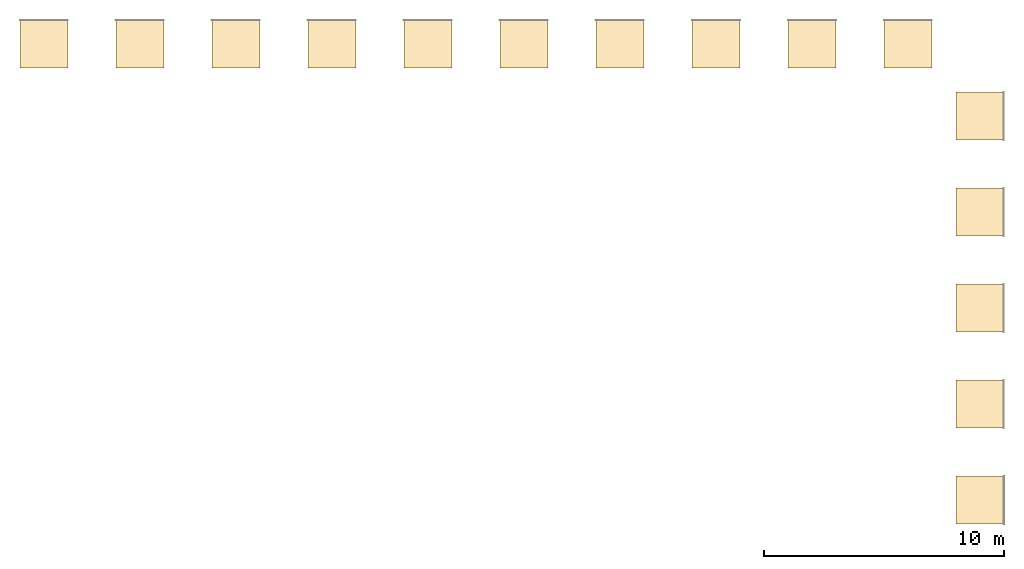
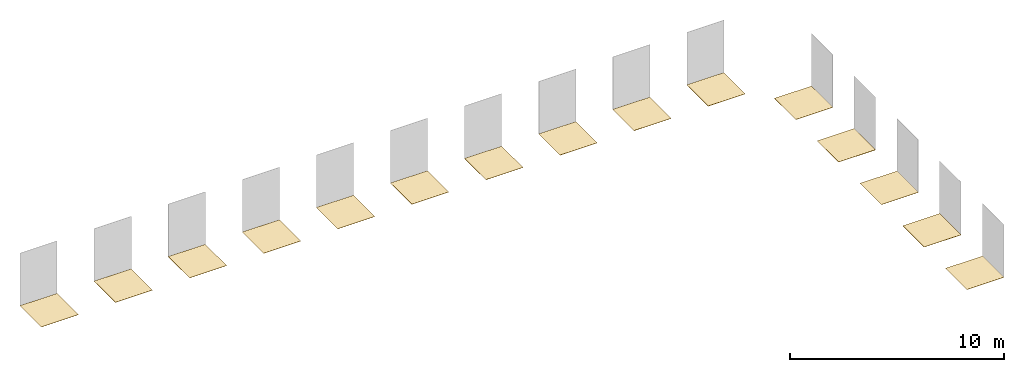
# One storey, part 2 of 2: 15 coverings.
"""IFC2X3 building model written with IfcOpenShell, lengths in millimetres."""

import ifcopenshell
import ifcopenshell.guid

model = None  # the IFC model being written
_history = None  # IfcOwnerHistory: only IFC2X3 demands one
_inside = {}  # id of a spatial element -> (the spatial element, [elements in it])
_under = {}  # id of a project, library or spatial element -> (it, [spatial elements below it])
_declared = {}  # id of a project -> (the project, [libraries it declares])
_typed = {}  # id of a type object -> (the type object, [elements of that type])
_made_of = {}  # id of a material, layer set ... -> (it, [elements and type objects made of it])


def new_model(schema):
    """Start an empty IFC model of exactly this schema.

    Asked for "IFC4X3", IfcOpenShell would pick the latest addendum, in which some entities
    have other attributes; the version numbers below select the first issue.
    IFC2X3 requires an IfcOwnerHistory on every rooted entity: one is made here for all.
    """
    global model, _history
    if schema == "IFC4X3":
        model = ifcopenshell.file(schema_version=(4, 3, 0, 0))
    else:
        model = ifcopenshell.file(schema=schema)
    _inside.clear()
    _under.clear()
    _declared.clear()
    _typed.clear()
    _made_of.clear()
    _history = None
    if model.schema == "IFC2X3":
        org = make("IfcOrganization", Name="unknown")
        user = make(
            "IfcPersonAndOrganization",
            ThePerson=make("IfcPerson", FamilyName="unknown"),
            TheOrganization=org,
        )
        app = make(
            "IfcApplication",
            ApplicationDeveloper=org,
            Version="unknown",
            ApplicationFullName="unknown",
            ApplicationIdentifier="unknown",
        )
        _history = make(
            "IfcOwnerHistory",
            OwningUser=user,
            OwningApplication=app,
            ChangeAction="ADDED",
            CreationDate=0,
        )
    return model


def make(cls, **values):
    """One entity of the class cls with the attributes given. An attribute that is None is left unset."""
    return model.create_entity(
        cls, **{name: value for name, value in values.items() if value is not None}
    )


def entity(cls, *values):
    """Any entity or typed value of the class cls, its attributes in the order of the schema. None: left unset."""
    e = model.create_entity(cls)
    for i, value in enumerate(values):
        if value is not None:
            e[i] = value
    return e


def rooted(cls, **values):
    """An entity with a GlobalId (a new one), such as an element, a storey or a relation."""
    return make(cls, GlobalId=ifcopenshell.guid.new(), OwnerHistory=_history, **values)


def si_unit(unit_type, name, prefix=None):
    """IfcSIUnit, for example si_unit("LENGTHUNIT", "METRE", prefix="MILLI")."""
    return make("IfcSIUnit", UnitType=unit_type, Prefix=prefix, Name=name)


def converted_unit(unit_type, name, factor, base, dimensions=None, offset=None):
    """IfcConversionBasedUnit, such as the inch: factor (a typed value) times the base unit."""
    return make(
        "IfcConversionBasedUnit"
        if offset is None
        else "IfcConversionBasedUnitWithOffset",
        ConversionOffset=offset,
        Dimensions=None
        if dimensions is None
        else entity("IfcDimensionalExponents", *dimensions),
        UnitType=unit_type,
        Name=name,
        ConversionFactor=make(
            "IfcMeasureWithUnit", ValueComponent=factor, UnitComponent=base
        ),
    )


def derived_unit(unit_type, elements):
    """IfcDerivedUnit: a product of units, each with its exponent."""
    return make(
        "IfcDerivedUnit",
        Elements=[
            make("IfcDerivedUnitElement", Unit=unit, Exponent=power)
            for unit, power in elements
        ],
        UnitType=unit_type,
    )


def assignment(units):
    """IfcUnitAssignment: the units of a project."""
    return None if units is None else make("IfcUnitAssignment", Units=units)


def point(xyz):
    """IfcCartesianPoint."""
    return None if xyz is None else make("IfcCartesianPoint", Coordinates=xyz)


def direction(xyz):
    """IfcDirection."""
    return None if xyz is None else make("IfcDirection", DirectionRatios=xyz)


def frame(location, z_axis=None, x_axis=None):
    """IfcAxis2Placement3D, a coordinate frame: its origin and axes. An axis left out is left unset."""
    return make(
        "IfcAxis2Placement3D",
        Location=point(location),
        Axis=direction(z_axis),
        RefDirection=direction(x_axis),
    )


def frame_2d(location, x_axis=None):
    """IfcAxis2Placement2D, a coordinate frame in the plane: its origin and x axis."""
    return make(
        "IfcAxis2Placement2D", Location=point(location), RefDirection=direction(x_axis)
    )


def origin():
    """The frame at (0, 0, 0) with its axes left unset."""
    return frame((0.0, 0.0, 0.0))


def place(relative_to, where):
    """IfcLocalPlacement: puts the frame where relative to a parent placement (None: the world)."""
    return make(
        "IfcLocalPlacement", PlacementRelTo=relative_to, RelativePlacement=where
    )


def context(
    kind, dimensions, precision=None, world=None, true_north=None, identifier=None
):
    """IfcGeometricRepresentationContext, for example the 3D "Model" context."""
    return make(
        "IfcGeometricRepresentationContext",
        ContextIdentifier=identifier,
        ContextType=kind,
        CoordinateSpaceDimension=dimensions,
        Precision=precision,
        WorldCoordinateSystem=world,
        TrueNorth=true_north,
    )


def subcontext(parent, identifier, kind, view, scale=None):
    """IfcGeometricRepresentationSubContext, for example "Body" below "Model"."""
    return make(
        "IfcGeometricRepresentationSubContext",
        ContextIdentifier=identifier,
        ContextType=kind,
        ParentContext=parent,
        TargetScale=scale,
        TargetView=view,
    )


def project(units=None, contexts=None):
    """IfcProject with its units and contexts."""
    return rooted(
        "IfcProject",
        Name="project",
        RepresentationContexts=contexts,
        UnitsInContext=assignment(units),
    )


def spatial(cls, under=None, at=None, **own):
    """A site, building, storey or space (cls), placed at a placement, below another one or the project."""
    s = rooted(cls, ObjectPlacement=at, **own)
    if under is not None:
        _under.setdefault(under.id(), (under, []))[1].append(s)
    return s


def profile(cls, at=None, kind="AREA", **sizes):
    """A parametric profile (cls). Its sizes go by their IFC names, for example OverallWidth=200.0."""
    return make(cls, ProfileType=kind, Position=at, **sizes)


def rectangle(**sizes):
    """IfcRectangleProfileDef."""
    return profile("IfcRectangleProfileDef", **sizes)


def extrude(swept, where, along, depth):
    """IfcExtrudedAreaSolid: the profile swept, set in the frame where, extruded along a direction by depth."""
    return make(
        "IfcExtrudedAreaSolid",
        SweptArea=swept,
        Position=where,
        ExtrudedDirection=direction(along),
        Depth=depth,
    )


def shape(context_of_items, identifier, shape_type, items):
    """IfcShapeRepresentation: the items that make up one representation, for example the "Body"."""
    return make(
        "IfcShapeRepresentation",
        ContextOfItems=context_of_items,
        RepresentationIdentifier=identifier,
        RepresentationType=shape_type,
        Items=items,
    )


def material(Name=None, Category=None):
    """IfcMaterial."""
    return make("IfcMaterial", Name=Name, Category=Category)


def layer(
    of_material, thickness, ventilated=None, Name=None, Category=None, Priority=None
):
    """IfcMaterialLayer: one layer of a wall or slab, of a material (None: an air gap)."""
    return make(
        "IfcMaterialLayer",
        Material=of_material,
        LayerThickness=thickness,
        IsVentilated=ventilated,
        Name=Name,
        Category=Category,
        Priority=Priority,
    )


def layer_set(layers, Name=None):
    """IfcMaterialLayerSet."""
    return make("IfcMaterialLayerSet", MaterialLayers=layers, LayerSetName=Name)


def layer_usage(for_layer_set, set_direction, sense, offset, extent=None):
    """IfcMaterialLayerSetUsage: how a layer set lies in its element."""
    return make(
        "IfcMaterialLayerSetUsage",
        ForLayerSet=for_layer_set,
        LayerSetDirection=set_direction,
        DirectionSense=sense,
        OffsetFromReferenceLine=offset,
        ReferenceExtent=extent,
    )


def made_of(thing, what):
    """Note that an element or type object is made of a material, layer set ...; save() writes the relation."""
    if what is not None:
        _made_of.setdefault(what.id(), (what, []))[1].append(thing)
    return thing


def element(
    cls,
    number,
    at=None,
    inside=None,
    cuts=None,
    type_object=None,
    material=None,
    context=None,
    identifier="Body",
    shape_type=None,
    held_by="IfcProductDefinitionShape",
    body=None,
    shapes=None,
    **own,
):
    """One element of the class cls, such as IfcWall. Its Tag is "e" and its number.

    at: its placement. inside: the storey or other place that contains it. cuts: it is an
    opening in that element (IfcRelVoidsElement). A single representation is given by context,
    identifier, shape_type and body (its items); several are given by shapes. held_by: the class
    of the entity that holds the representations. save() writes the other relations.
    """
    e = rooted(cls, Tag="e%d" % number, ObjectPlacement=at, **own)
    if body is not None:
        shapes = [shape(context, identifier, shape_type, body)]
    if shapes is not None:
        e.Representation = make(held_by, Representations=shapes)
    if inside is not None:
        _inside.setdefault(inside.id(), (inside, []))[1].append(e)
    if cuts is not None:
        rooted(
            "IfcRelVoidsElement", RelatingBuildingElement=cuts, RelatedOpeningElement=e
        )
    if type_object is not None:
        _typed.setdefault(type_object.id(), (type_object, []))[1].append(e)
    return made_of(e, material)


def aggregate(whole, parts):
    """IfcRelAggregates: a whole, such as a stair, and the parts it consists of."""
    return rooted("IfcRelAggregates", RelatingObject=whole, RelatedObjects=parts)


def save(model, path):
    """Write the relations noted so far, then the file.

    IfcRelAggregates (storeys below a building ...), IfcRelContainedInSpatialStructure (elements
    in a storey), IfcRelDefinesByType, IfcRelAssociatesMaterial and IfcRelDeclares: one each for
    every whole, place, type object, material and project.
    """
    for whole, parts in _under.values():
        aggregate(whole, parts)
    for where, things in _inside.values():
        rooted(
            "IfcRelContainedInSpatialStructure",
            RelatedElements=things,
            RelatingStructure=where,
        )
    for kind, things in _typed.values():
        rooted("IfcRelDefinesByType", RelatedObjects=things, RelatingType=kind)
    for what, things in _made_of.values():
        rooted("IfcRelAssociatesMaterial", RelatedObjects=things, RelatingMaterial=what)
    for by, libraries in _declared.values():
        rooted("IfcRelDeclares", RelatingContext=by, RelatedDefinitions=libraries)
    model.write(path)


model = new_model("IFC2X3")

# Units and contexts
model_context = context("Model", 3, precision=0.01, world=origin(), true_north=direction((6.12303176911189e-17, 1.0)))
body_context = subcontext(model_context, "Body", "Model", "MODEL_VIEW")
ifc_project = project(units=[si_unit("LENGTHUNIT", "METRE", prefix="MILLI"), si_unit("AREAUNIT", "SQUARE_METRE"), si_unit("VOLUMEUNIT", "CUBIC_METRE"), converted_unit("PLANEANGLEUNIT", "DEGREE", entity("IfcRatioMeasure", 0.0174532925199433), si_unit("PLANEANGLEUNIT", "RADIAN"), dimensions=[0, 0, 0, 0, 0, 0, 0]), si_unit("MASSUNIT", "GRAM", prefix="KILO"), derived_unit("MASSDENSITYUNIT", [(si_unit("MASSUNIT", "GRAM", prefix="KILO"), 1), (si_unit("LENGTHUNIT", "METRE"), -3)]), si_unit("TIMEUNIT", "SECOND"), si_unit("FREQUENCYUNIT", "HERTZ"), si_unit("THERMODYNAMICTEMPERATUREUNIT", "DEGREE_CELSIUS"), derived_unit("THERMALTRANSMITTANCEUNIT", [(si_unit("MASSUNIT", "GRAM", prefix="KILO"), 1), (si_unit("THERMODYNAMICTEMPERATUREUNIT", "KELVIN"), -1), (si_unit("TIMEUNIT", "SECOND"), -3)]), derived_unit("VOLUMETRICFLOWRATEUNIT", [(si_unit("LENGTHUNIT", "METRE"), 3), (si_unit("TIMEUNIT", "SECOND"), -1)]), si_unit("ELECTRICCURRENTUNIT", "AMPERE"), si_unit("ELECTRICVOLTAGEUNIT", "VOLT"), si_unit("POWERUNIT", "WATT"), si_unit("FORCEUNIT", "NEWTON", prefix="KILO"), si_unit("ILLUMINANCEUNIT", "LUX"), si_unit("LUMINOUSFLUXUNIT", "LUMEN"), si_unit("LUMINOUSINTENSITYUNIT", "CANDELA"), derived_unit("USERDEFINED", [(si_unit("MASSUNIT", "GRAM", prefix="KILO"), -1), (si_unit("LENGTHUNIT", "METRE"), -2), (si_unit("TIMEUNIT", "SECOND"), 3), (si_unit("LUMINOUSFLUXUNIT", "LUMEN"), 1)]), derived_unit("LINEARVELOCITYUNIT", [(si_unit("LENGTHUNIT", "METRE"), 1), (si_unit("TIMEUNIT", "SECOND"), -1)]), si_unit("PRESSUREUNIT", "PASCAL"), derived_unit("USERDEFINED", [(si_unit("LENGTHUNIT", "METRE"), -2), (si_unit("MASSUNIT", "GRAM", prefix="KILO"), 1), (si_unit("TIMEUNIT", "SECOND"), -2)])], contexts=[model_context])

# Site, building, storey
site_placement = place(None, origin())
site = spatial("IfcSite", under=ifc_project, at=site_placement, Name="Default", CompositionType="ELEMENT")
building_placement = place(site_placement, origin())
building = spatial("IfcBuilding", under=site, at=building_placement, CompositionType="ELEMENT")
storey_placement = place(building_placement, origin())
storey = spatial("IfcBuildingStorey", under=building, at=storey_placement, Name="Level 1", CompositionType="ELEMENT", Elevation=0.0)

# Coverings
ifc_material_1 = material(Name="PGR_Porcelanosa_CeramicTiles_Ascot_Teca-294x1200mm-100161123")
ifc_layer_1 = layer(ifc_material_1, 12.0)
ifc_layer_set_1 = layer_set([ifc_layer_1], Name="Floor:PGR_Porcelanosa_CeramicTiles_Ascot_Teca-294x1200mm-100161123")
ifc_layer_usage_1 = layer_usage(ifc_layer_set_1, "AXIS3", "POSITIVE", 0.0)
covering_1_placement = place(storey_placement, origin())
element("IfcCovering", 1, at=covering_1_placement, inside=storey, material=ifc_layer_usage_1, Name="Floor:PGR_Porcelanosa_CeramicTiles_Ascot_Teca-294x1200mm-100161123", ObjectType="Floor:PGR_Porcelanosa_CeramicTiles_Ascot_Teca-294x1200mm-100161123", PredefinedType="FLOORING", context=body_context, shape_type="SweptSolid", body=[
    extrude(rectangle(XDim=2000.0, YDim=2000.0, at=frame_2d((2.8421709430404e-13, 1.13686837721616e-13), x_axis=(1.0, 0.0))), frame((2527.07742659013, -3501.98267476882, 0.0), z_axis=(0.0, 0.0, -1.0), x_axis=(0.0, 1.0, 0.0)), (0.0, 0.0, 1.0), 12.0),
])
ifc_material_2 = material(Name="PGR_Porcelanosa_CeramicTiles_Ascot_Olivo-294x1200mm-100161121")
ifc_layer_2 = layer(ifc_material_2, 12.0)
ifc_layer_set_2 = layer_set([ifc_layer_2], Name="Floor:PGR_Porcelanosa_CeramicTiles_Ascot_Olivo-294x1200mm-100161121")
ifc_layer_usage_2 = layer_usage(ifc_layer_set_2, "AXIS3", "POSITIVE", 0.0)
covering_2_placement = place(storey_placement, origin())
element("IfcCovering", 2, at=covering_2_placement, inside=storey, material=ifc_layer_usage_2, Name="Floor:PGR_Porcelanosa_CeramicTiles_Ascot_Olivo-294x1200mm-100161121", ObjectType="Floor:PGR_Porcelanosa_CeramicTiles_Ascot_Olivo-294x1200mm-100161121", PredefinedType="FLOORING", context=body_context, shape_type="SweptSolid", body=[
    extrude(rectangle(XDim=2000.0, YDim=2000.0, at=frame_2d((5.6843418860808e-13, 1.13686837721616e-13), x_axis=(1.0, 0.0))), frame((2527.07742659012, -7501.98267476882, 0.0), z_axis=(0.0, 0.0, -1.0), x_axis=(0.0, 1.0, 0.0)), (0.0, 0.0, 1.0), 12.0),
])
ifc_material_3 = material(Name="PGR_Porcelanosa_CeramicTiles_Ascot_Teca-193x1200mm-100161038")
ifc_layer_3 = layer(ifc_material_3, 12.0)
ifc_layer_set_3 = layer_set([ifc_layer_3], Name="Floor:PGR_Porcelanosa_CeramicTiles_Ascot_Teca-193x1200mm-100161038")
ifc_layer_usage_3 = layer_usage(ifc_layer_set_3, "AXIS3", "POSITIVE", 0.0)
covering_3_placement = place(storey_placement, origin())
element("IfcCovering", 3, at=covering_3_placement, inside=storey, material=ifc_layer_usage_3, Name="Floor:PGR_Porcelanosa_CeramicTiles_Ascot_Teca-193x1200mm-100161038", ObjectType="Floor:PGR_Porcelanosa_CeramicTiles_Ascot_Teca-193x1200mm-100161038", PredefinedType="FLOORING", context=body_context, shape_type="SweptSolid", body=[
    extrude(rectangle(XDim=2000.0, YDim=2000.0, at=frame_2d((-1.13686837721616e-13, 2.27373675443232e-13), x_axis=(1.0, 0.0))), frame((-4472.92257340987, -501.98267476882, 0.0), z_axis=(0.0, 0.0, -1.0), x_axis=(0.0, 1.0, 0.0)), (0.0, 0.0, 1.0), 12.0),
])
ifc_material_4 = material(Name="PGR_Porcelanosa_CeramicTiles_Ascot_Olivo-193x1200mm-100161027")
ifc_layer_4 = layer(ifc_material_4, 12.0)
ifc_layer_set_4 = layer_set([ifc_layer_4], Name="Floor:PGR_Porcelanosa_CeramicTiles_Ascot_Olivo-193x1200mm-100161027")
ifc_layer_usage_4 = layer_usage(ifc_layer_set_4, "AXIS3", "POSITIVE", 0.0)
covering_4_placement = place(storey_placement, origin())
element("IfcCovering", 4, at=covering_4_placement, inside=storey, material=ifc_layer_usage_4, Name="Floor:PGR_Porcelanosa_CeramicTiles_Ascot_Olivo-193x1200mm-100161027", ObjectType="Floor:PGR_Porcelanosa_CeramicTiles_Ascot_Olivo-193x1200mm-100161027", PredefinedType="FLOORING", context=body_context, shape_type="SweptSolid", body=[
    extrude(rectangle(XDim=2000.0, YDim=2000.0, at=frame_2d((-1.13686837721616e-13, -1.13686837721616e-13), x_axis=(1.0, 0.0))), frame((-472.922573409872, -501.982674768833, 0.0), z_axis=(0.0, 0.0, -1.0), x_axis=(0.0, 1.0, 0.0)), (0.0, 0.0, 1.0), 12.0),
])
ifc_material_5 = material(Name="PGR_Porcelanosa_CeramicTiles_Ascot_Grey-294x1200mm-100161120")
ifc_layer_5 = layer(ifc_material_5, 12.0)
ifc_layer_set_5 = layer_set([ifc_layer_5], Name="Floor:PGR_Porcelanosa_CeramicTiles_Ascot_Grey-294x1200mm-100161120")
ifc_layer_usage_5 = layer_usage(ifc_layer_set_5, "AXIS3", "POSITIVE", 0.0)
covering_5_placement = place(storey_placement, origin())
element("IfcCovering", 5, at=covering_5_placement, inside=storey, material=ifc_layer_usage_5, Name="Floor:PGR_Porcelanosa_CeramicTiles_Ascot_Grey-294x1200mm-100161120", ObjectType="Floor:PGR_Porcelanosa_CeramicTiles_Ascot_Grey-294x1200mm-100161120", PredefinedType="FLOORING", context=body_context, shape_type="SweptSolid", body=[
    extrude(rectangle(XDim=2000.0, YDim=2000.0, at=frame_2d((0.0, 1.13686837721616e-13), x_axis=(1.0, 0.0))), frame((2527.07742659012, -11501.9826747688, 0.0), z_axis=(0.0, 0.0, -1.0), x_axis=(0.0, 1.0, 0.0)), (0.0, 0.0, 1.0), 12.0),
])
ifc_material_6 = material(Name="PGR_Porcelanosa_CeramicTiles_Ascot_Grey-193x1200mm-100161025")
ifc_layer_6 = layer(ifc_material_6, 12.0)
ifc_layer_set_6 = layer_set([ifc_layer_6], Name="Floor:PGR_Porcelanosa_CeramicTiles_Ascot_Grey-193x1200mm-100161025")
ifc_layer_usage_6 = layer_usage(ifc_layer_set_6, "AXIS3", "POSITIVE", 0.0)
covering_6_placement = place(storey_placement, origin())
element("IfcCovering", 6, at=covering_6_placement, inside=storey, material=ifc_layer_usage_6, Name="Floor:PGR_Porcelanosa_CeramicTiles_Ascot_Grey-193x1200mm-100161025", ObjectType="Floor:PGR_Porcelanosa_CeramicTiles_Ascot_Grey-193x1200mm-100161025", PredefinedType="FLOORING", context=body_context, shape_type="SweptSolid", body=[
    extrude(rectangle(XDim=2000.0, YDim=2000.0, at=frame_2d((-1.13686837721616e-13, 0.0), x_axis=(1.0, 0.0))), frame((-8472.92257340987, -501.98267476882, 0.0), z_axis=(0.0, 0.0, -1.0), x_axis=(0.0, 1.0, 0.0)), (0.0, 0.0, 1.0), 12.0),
])
ifc_material_7 = material(Name="PGR_Porcelanosa_CeramicTiles_Ascot_Teca_Ant.-193x1200mm-100161039")
ifc_layer_7 = layer(ifc_material_7, 12.0)
ifc_layer_set_7 = layer_set([ifc_layer_7], Name="Floor:PGR_Porcelanosa_CeramicTiles_Ascot_Teca_Antislip-193x1200mm-100161039")
ifc_layer_usage_7 = layer_usage(ifc_layer_set_7, "AXIS3", "POSITIVE", 0.0)
covering_7_placement = place(storey_placement, origin())
element("IfcCovering", 7, at=covering_7_placement, inside=storey, material=ifc_layer_usage_7, Name="Floor:PGR_Porcelanosa_CeramicTiles_Ascot_Teca_Antislip-193x1200mm-100161039", ObjectType="Floor:PGR_Porcelanosa_CeramicTiles_Ascot_Teca_Antislip-193x1200mm-100161039", PredefinedType="FLOORING", context=body_context, shape_type="SweptSolid", body=[
    extrude(rectangle(XDim=2000.0, YDim=2000.0, at=frame_2d((-1.70530256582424e-13, 2.1600499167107e-12), x_axis=(1.0, 0.0))), frame((-16472.9225734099, -501.982674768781, 0.0), z_axis=(0.0, 0.0, -1.0), x_axis=(0.0, 1.0, 0.0)), (0.0, 0.0, 1.0), 12.0),
])
ifc_material_8 = material(Name="PGR_Porcelanosa_CeramicTiles_Ascot_Grey_Ant.-193x1200mm-100161026")
ifc_layer_8 = layer(ifc_material_8, 12.0)
ifc_layer_set_8 = layer_set([ifc_layer_8], Name="Floor:PGR_Porcelanosa_CeramicTiles_Ascot_Grey_Ant.-193x1200mm-100161026")
ifc_layer_usage_8 = layer_usage(ifc_layer_set_8, "AXIS3", "POSITIVE", 0.0)
covering_8_placement = place(storey_placement, origin())
element("IfcCovering", 8, at=covering_8_placement, inside=storey, material=ifc_layer_usage_8, Name="Floor:PGR_Porcelanosa_CeramicTiles_Ascot_Grey_Ant.-193x1200mm-100161026", ObjectType="Floor:PGR_Porcelanosa_CeramicTiles_Ascot_Grey_Ant.-193x1200mm-100161026", PredefinedType="FLOORING", context=body_context, shape_type="SweptSolid", body=[
    extrude(rectangle(XDim=2000.0, YDim=2000.0, at=frame_2d((-1.70530256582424e-13, 1.08002495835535e-12), x_axis=(1.0, 0.0))), frame((-12472.9225734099, -501.982674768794, 0.0), z_axis=(0.0, 0.0, -1.0), x_axis=(0.0, 1.0, 0.0)), (0.0, 0.0, 1.0), 12.0),
])
ifc_material_9 = material(Name="PGR_Porcelanosa_CeramicTiles_Ascot_Olivo_Ant.-193x1200mm-100161028")
ifc_layer_9 = layer(ifc_material_9, 12.0)
ifc_layer_set_9 = layer_set([ifc_layer_9], Name="Floor:PGR_Porcelanosa_CeramicTiles_Ascot_Olivo_Ant.-193x1200mm-100161028")
ifc_layer_usage_9 = layer_usage(ifc_layer_set_9, "AXIS3", "POSITIVE", 0.0)
covering_9_placement = place(storey_placement, origin())
element("IfcCovering", 9, at=covering_9_placement, inside=storey, material=ifc_layer_usage_9, Name="Floor:PGR_Porcelanosa_CeramicTiles_Ascot_Olivo_Ant.-193x1200mm-100161028", ObjectType="Floor:PGR_Porcelanosa_CeramicTiles_Ascot_Olivo_Ant.-193x1200mm-100161028", PredefinedType="FLOORING", context=body_context, shape_type="SweptSolid", body=[
    extrude(rectangle(XDim=2000.0, YDim=2000.0, at=frame_2d((-1.13686837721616e-13, -2.1600499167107e-12), x_axis=(1.0, 0.0))), frame((-20472.9225734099, -501.982674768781, 0.0), z_axis=(0.0, 0.0, -1.0), x_axis=(0.0, 1.0, 0.0)), (0.0, 0.0, 1.0), 12.0),
])
ifc_material_10 = material(Name="PGR_Porcelanosa_CeramicTiles_Ascot_Arce-193x1200mm-100161043")
ifc_layer_10 = layer(ifc_material_10, 11.0)
ifc_layer_set_10 = layer_set([ifc_layer_10], Name="Floor:PGR_Porcelanosa_CeramicTiles_Ascot_Arce-193x1200mm-100161043")
ifc_layer_usage_10 = layer_usage(ifc_layer_set_10, "AXIS3", "POSITIVE", 0.0)
covering_10_placement = place(storey_placement, origin())
element("IfcCovering", 10, at=covering_10_placement, inside=storey, material=ifc_layer_usage_10, Name="Floor:PGR_Porcelanosa_CeramicTiles_Ascot_Arce-193x1200mm-100161043", ObjectType="Floor:PGR_Porcelanosa_CeramicTiles_Ascot_Arce-193x1200mm-100161043", PredefinedType="FLOORING", context=body_context, shape_type="SweptSolid", body=[
    extrude(rectangle(XDim=2000.0, YDim=2000.0, at=frame_2d((5.6843418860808e-14, -2.1600499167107e-12), x_axis=(1.0, 0.0))), frame((-36472.9225734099, -501.982674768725, 0.0), z_axis=(0.0, 0.0, -1.0), x_axis=(0.0, 1.0, 0.0)), (0.0, 0.0, 1.0), 11.0),
])
ifc_material_11 = material(Name="PGR_Porcelanosa_CeramicTiles_Ascot_Arce-294x1200mm-100161044")
ifc_layer_11 = layer(ifc_material_11, 11.0)
ifc_layer_set_11 = layer_set([ifc_layer_11], Name="Floor:PGR_Porcelanosa_CeramicTiles_Ascot_Arce-294x1200mm-100161044")
ifc_layer_usage_11 = layer_usage(ifc_layer_set_11, "AXIS3", "POSITIVE", 0.0)
covering_11_placement = place(storey_placement, origin())
element("IfcCovering", 11, at=covering_11_placement, inside=storey, material=ifc_layer_usage_11, Name="Floor:PGR_Porcelanosa_CeramicTiles_Ascot_Arce-294x1200mm-100161044", ObjectType="Floor:PGR_Porcelanosa_CeramicTiles_Ascot_Arce-294x1200mm-100161044", PredefinedType="FLOORING", context=body_context, shape_type="SweptSolid", body=[
    extrude(rectangle(XDim=2000.0, YDim=2000.0, at=frame_2d((0.0, 1.13686837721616e-13), x_axis=(1.0, 0.0))), frame((2527.07742659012, -15501.9826747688, 0.0), z_axis=(0.0, 0.0, -1.0), x_axis=(0.0, 1.0, 0.0)), (0.0, 0.0, 1.0), 11.0),
])
ifc_material_12 = material(Name="PGR_Porcelanosa_CeramicTiles_Ascot_Arce_Ant.-193x1200mm-100161045")
ifc_layer_12 = layer(ifc_material_12, 11.0)
ifc_layer_set_12 = layer_set([ifc_layer_12], Name="Floor:PGR_Porcelanosa_CeramicTiles_Ascot_Arce_Ant.-193x1200mm-100161045")
ifc_layer_usage_12 = layer_usage(ifc_layer_set_12, "AXIS3", "POSITIVE", 0.0)
covering_12_placement = place(storey_placement, origin())
element("IfcCovering", 12, at=covering_12_placement, inside=storey, material=ifc_layer_usage_12, Name="Floor:PGR_Porcelanosa_CeramicTiles_Ascot_Arce_Ant.-193x1200mm-100161045", ObjectType="Floor:PGR_Porcelanosa_CeramicTiles_Ascot_Arce_Ant.-193x1200mm-100161045", PredefinedType="FLOORING", context=body_context, shape_type="SweptSolid", body=[
    extrude(rectangle(XDim=2000.0, YDim=2000.0, at=frame_2d((5.6843418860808e-14, 4.37694325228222e-12), x_axis=(1.0, 0.0))), frame((-32472.9225734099, -501.982674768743, 0.0), z_axis=(0.0, 0.0, -1.0), x_axis=(0.0, 1.0, 0.0)), (0.0, 0.0, 1.0), 11.0),
])
ifc_material_13 = material(Name="PGR_Porcelanosa_CeramicTiles_Ascot_Roble-193x1200mm-100161029")
ifc_layer_13 = layer(ifc_material_13, 11.0)
ifc_layer_set_13 = layer_set([ifc_layer_13], Name="Floor:PGR_Porcelanosa_CeramicTiles_Ascot_Roble-193x1200mm-100161029")
ifc_layer_usage_13 = layer_usage(ifc_layer_set_13, "AXIS3", "POSITIVE", 0.0)
covering_13_placement = place(storey_placement, origin())
element("IfcCovering", 13, at=covering_13_placement, inside=storey, material=ifc_layer_usage_13, Name="Floor:PGR_Porcelanosa_CeramicTiles_Ascot_Roble-193x1200mm-100161029", ObjectType="Floor:PGR_Porcelanosa_CeramicTiles_Ascot_Roble-193x1200mm-100161029", PredefinedType="FLOORING", context=body_context, shape_type="SweptSolid", body=[
    extrude(rectangle(XDim=2000.0, YDim=2000.0, at=frame_2d((5.6843418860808e-14, 0.0), x_axis=(1.0, 0.0))), frame((-28472.9225734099, -501.982674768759, 0.0), z_axis=(0.0, 0.0, -1.0), x_axis=(0.0, 1.0, 0.0)), (0.0, 0.0, 1.0), 11.0),
])
ifc_material_14 = material(Name="PGR_Porcelanosa_CeramicTiles_Ascot_Roble-294x1200mm-100161122")
ifc_layer_14 = layer(ifc_material_14, 11.0)
ifc_layer_set_14 = layer_set([ifc_layer_14], Name="Floor:PGR_Porcelanosa_CeramicTiles_Ascot_Roble-294x1200mm-100161122")
ifc_layer_usage_14 = layer_usage(ifc_layer_set_14, "AXIS3", "POSITIVE", 0.0)
covering_14_placement = place(storey_placement, origin())
element("IfcCovering", 14, at=covering_14_placement, inside=storey, material=ifc_layer_usage_14, Name="Floor:PGR_Porcelanosa_CeramicTiles_Ascot_Roble-294x1200mm-100161122", ObjectType="Floor:PGR_Porcelanosa_CeramicTiles_Ascot_Roble-294x1200mm-100161122", PredefinedType="FLOORING", context=body_context, shape_type="SweptSolid", body=[
    extrude(rectangle(XDim=2000.0, YDim=2000.0, at=frame_2d((0.0, 1.13686837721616e-13), x_axis=(1.0, 0.0))), frame((2527.07742659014, -19501.9826747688, 0.0), z_axis=(0.0, 0.0, -1.0), x_axis=(0.0, 1.0, 0.0)), (0.0, 0.0, 1.0), 11.0),
])
ifc_material_15 = material(Name="PGR_Porcelanosa_CeramicTiles_Ascot_Roble_Ant.-193x1200mm-100161037")
ifc_layer_15 = layer(ifc_material_15, 11.0)
ifc_layer_set_15 = layer_set([ifc_layer_15], Name="Floor:PGR_Porcelanosa_CeramicTiles_Ascot_Roble_Ant.-193x1200mm-100161037")
ifc_layer_usage_15 = layer_usage(ifc_layer_set_15, "AXIS3", "POSITIVE", 0.0)
covering_15_placement = place(storey_placement, origin())
element("IfcCovering", 15, at=covering_15_placement, inside=storey, material=ifc_layer_usage_15, Name="Floor:PGR_Porcelanosa_CeramicTiles_Ascot_Roble_Ant.-193x1200mm-100161037", ObjectType="Floor:PGR_Porcelanosa_CeramicTiles_Ascot_Roble_Ant.-193x1200mm-100161037", PredefinedType="FLOORING", context=body_context, shape_type="SweptSolid", body=[
    extrude(rectangle(XDim=2000.0, YDim=2000.0, at=frame_2d((5.6843418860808e-14, 0.0), x_axis=(1.0, 0.0))), frame((-24472.9225734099, -501.982674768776, 0.0), z_axis=(0.0, 0.0, -1.0), x_axis=(0.0, 1.0, 0.0)), (0.0, 0.0, 1.0), 11.0),
])

save(model, "model.ifc")
